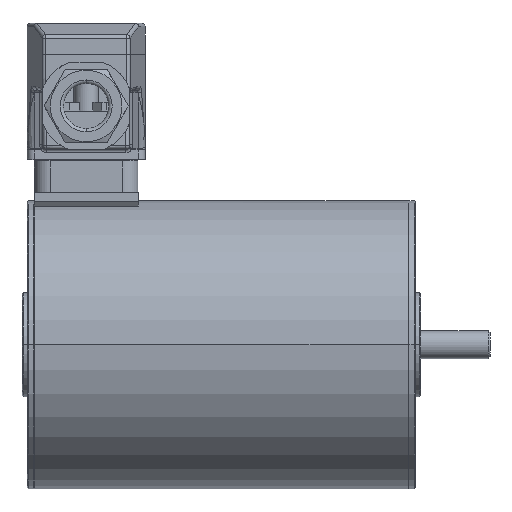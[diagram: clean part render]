
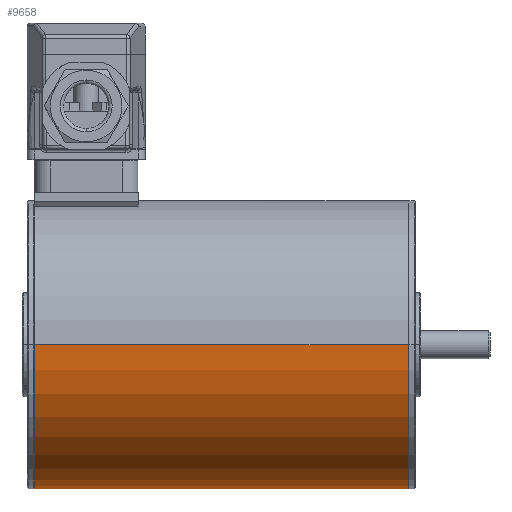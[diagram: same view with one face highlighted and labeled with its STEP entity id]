
A CAD part, front view. The second image highlights one B-rep face of the part: STEP entity #9658.
In plain terms, the highlighted cylindrical face has radius 41.5 mm (diameter 83 mm), a partial arc.
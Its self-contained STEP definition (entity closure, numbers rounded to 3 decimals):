
#452 = CARTESIAN_POINT ( 'NONE',  ( -109.9, 41.5, 0. ) ) ;
#6968 = VERTEX_POINT ( 'NONE', #452 ) ;
#7315 = VERTEX_POINT ( 'NONE', #14777 ) ;
#7449 = VERTEX_POINT ( 'NONE', #23613 ) ;
#7532 = VERTEX_POINT ( 'NONE', #24110 ) ;
#7795 = EDGE_CURVE ( 'NONE', #7532, #7315, #24812, .T. ) ;
#7797 = EDGE_CURVE ( 'NONE', #6968, #7449, #24994, .T. ) ;
#9377 = EDGE_CURVE ( 'NONE', #7532, #6968, #15044, .T. ) ;
#9380 = ORIENTED_EDGE ( 'NONE', *, *, #7795, .F. ) ;
#9382 = EDGE_LOOP ( 'NONE', ( #9380, #9662, #9669, #9512 ) ) ;
#9512 = ORIENTED_EDGE ( 'NONE', *, *, #9665, .F. ) ;
#9658 = ADVANCED_FACE ( 'NONE', ( #16296 ), #17881, .T. ) ;
#9662 = ORIENTED_EDGE ( 'NONE', *, *, #9377, .T. ) ;
#9665 = EDGE_CURVE ( 'NONE', #7315, #7449, #17615, .T. ) ;
#9669 = ORIENTED_EDGE ( 'NONE', *, *, #7797, .T. ) ;
#14777 = CARTESIAN_POINT ( 'NONE',  ( -2.1, -41.5, 0. ) ) ;
#15044 = CIRCLE ( 'NONE', #15190, 41.5 ) ;
#15190 = AXIS2_PLACEMENT_3D ( 'NONE', #15224, #15222, #15220 ) ;
#15220 = DIRECTION ( 'NONE',  ( 0., 1., 0. ) ) ;
#15222 = DIRECTION ( 'NONE',  ( 1., 0., 0. ) ) ;
#15224 = CARTESIAN_POINT ( 'NONE',  ( -109.9, 0., 0. ) ) ;
#16296 = FACE_OUTER_BOUND ( 'NONE', #9382, .T. ) ;
#17613 = CARTESIAN_POINT ( 'NONE',  ( -2.1, 0., 0. ) ) ;
#17615 = CIRCLE ( 'NONE', #17713, 41.5 ) ;
#17652 = AXIS2_PLACEMENT_3D ( 'NONE', #18010, #17705, #17820 ) ;
#17705 = DIRECTION ( 'NONE',  ( 1., 0., 0. ) ) ;
#17711 = DIRECTION ( 'NONE',  ( 0., 1., 0. ) ) ;
#17712 = DIRECTION ( 'NONE',  ( 1., 0., 0. ) ) ;
#17713 = AXIS2_PLACEMENT_3D ( 'NONE', #17613, #17712, #17711 ) ;
#17820 = DIRECTION ( 'NONE',  ( 0., 1., 0. ) ) ;
#17881 = CYLINDRICAL_SURFACE ( 'NONE', #17652, 41.5 ) ;
#18010 = CARTESIAN_POINT ( 'NONE',  ( -2., 0., 0. ) ) ;
#23613 = CARTESIAN_POINT ( 'NONE',  ( -2.1, 41.5, 0. ) ) ;
#24110 = CARTESIAN_POINT ( 'NONE',  ( -109.9, -41.5, 0. ) ) ;
#24811 = CARTESIAN_POINT ( 'NONE',  ( -2., -41.5, 0. ) ) ;
#24812 = LINE ( 'NONE', #24811, #24974 ) ;
#24974 = VECTOR ( 'NONE', #24996, 1000. ) ;
#24994 = LINE ( 'NONE', #25055, #25054 ) ;
#24996 = DIRECTION ( 'NONE',  ( 1., 0., 0. ) ) ;
#25052 = DIRECTION ( 'NONE',  ( 1., 0., 0. ) ) ;
#25054 = VECTOR ( 'NONE', #25052, 1000. ) ;
#25055 = CARTESIAN_POINT ( 'NONE',  ( -2., 41.5, 0. ) ) ;
